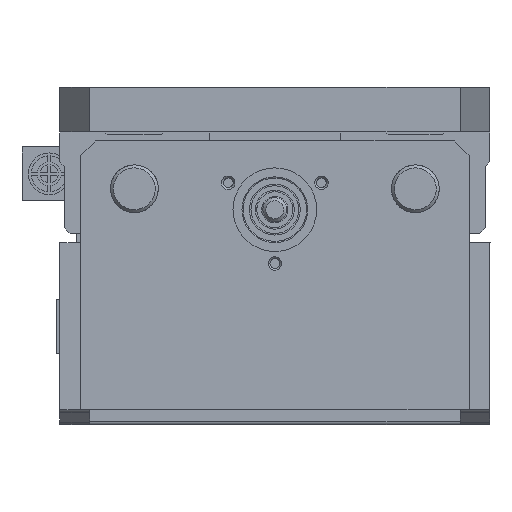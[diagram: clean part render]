
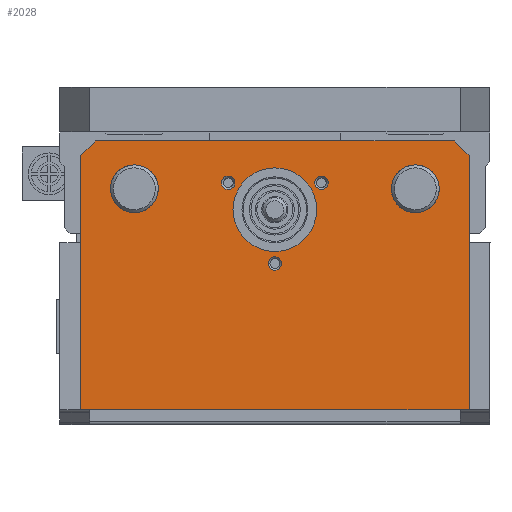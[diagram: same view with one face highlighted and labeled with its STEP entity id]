
A CAD part, front view. The second image highlights one B-rep face of the part: STEP entity #2028.
In plain terms, the highlighted planar face has unit normal (0, -1, 0) as drawn and (0, 0, 1) by its records, which use the part's own axes.
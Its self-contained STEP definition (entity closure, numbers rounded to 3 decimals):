
#2028=ADVANCED_FACE('',(#6701,#6703,#6705,#6707,#6709,#6711,#6713),#6715,.T.);
#6701=FACE_BOUND('',#6702,.T.);
#6702=EDGE_LOOP('',(#17052,#17053,#17054,#17055,#17056,#17057));
#6703=FACE_BOUND('',#6704,.T.);
#6704=EDGE_LOOP('',(#17058));
#6705=FACE_BOUND('',#6706,.T.);
#6706=EDGE_LOOP('',(#17059));
#6707=FACE_BOUND('',#6708,.T.);
#6708=EDGE_LOOP('',(#17060));
#6709=FACE_BOUND('',#6710,.T.);
#6710=EDGE_LOOP('',(#17061));
#6711=FACE_BOUND('',#6712,.T.);
#6712=EDGE_LOOP('',(#17062));
#6713=FACE_BOUND('',#6714,.T.);
#6714=EDGE_LOOP('',(#17063));
#6715=PLANE('',#6716);
#6716=AXIS2_PLACEMENT_3D('',#6717,#6718,#6719);
#6717=CARTESIAN_POINT('',(0.,0.,15.));
#6718=DIRECTION('',(0.,0.,1.));
#6719=DIRECTION('',(1.,0.,0.));
#17052=ORIENTED_EDGE('',*,*,#23595,.F.);
#17053=ORIENTED_EDGE('',*,*,#23596,.T.);
#17054=ORIENTED_EDGE('',*,*,#23597,.T.);
#17055=ORIENTED_EDGE('',*,*,#23588,.T.);
#17056=ORIENTED_EDGE('',*,*,#23598,.F.);
#17057=ORIENTED_EDGE('',*,*,#23599,.T.);
#17058=ORIENTED_EDGE('',*,*,#23600,.T.);
#17059=ORIENTED_EDGE('',*,*,#23601,.T.);
#17060=ORIENTED_EDGE('',*,*,#23583,.T.);
#17061=ORIENTED_EDGE('',*,*,#23602,.T.);
#17062=ORIENTED_EDGE('',*,*,#23603,.T.);
#17063=ORIENTED_EDGE('',*,*,#23604,.T.);
#23583=EDGE_CURVE('',#26833,#26833,#26834,.F.);
#23588=EDGE_CURVE('',#26844,#26842,#26845,.T.);
#23595=EDGE_CURVE('',#26857,#26858,#26859,.F.);
#23596=EDGE_CURVE('',#26857,#26860,#26861,.T.);
#23597=EDGE_CURVE('',#26860,#26844,#26862,.T.);
#23598=EDGE_CURVE('',#26863,#26842,#26864,.F.);
#23599=EDGE_CURVE('',#26863,#26858,#26865,.T.);
#23600=EDGE_CURVE('',#26866,#26866,#26867,.F.);
#23601=EDGE_CURVE('',#26868,#26868,#26869,.F.);
#23602=EDGE_CURVE('',#26870,#26870,#26871,.F.);
#23603=EDGE_CURVE('',#26872,#26872,#26873,.F.);
#23604=EDGE_CURVE('',#26874,#26874,#26875,.F.);
#26833=VERTEX_POINT('',#32850);
#26834=CIRCLE('',#32851,8.);
#26842=VERTEX_POINT('',#33009);
#26844=VERTEX_POINT('',#33013);
#26845=LINE('',#33014,#33015);
#26857=VERTEX_POINT('',#33044);
#26858=VERTEX_POINT('',#33045);
#26859=LINE('',#33046,#33047);
#26860=VERTEX_POINT('',#33049);
#26861=LINE('',#33050,#33051);
#26862=LINE('',#33053,#33054);
#26863=VERTEX_POINT('',#33056);
#26864=LINE('',#33057,#33058);
#26865=LINE('',#33060,#33061);
#26866=VERTEX_POINT('',#33063);
#26867=CIRCLE('',#33064,14.);
#26868=VERTEX_POINT('',#33068);
#26869=CIRCLE('',#33069,8.);
#26870=VERTEX_POINT('',#33073);
#26871=CIRCLE('',#33074,2.25);
#26872=VERTEX_POINT('',#33078);
#26873=CIRCLE('',#33079,2.25);
#26874=VERTEX_POINT('',#33083);
#26875=CIRCLE('',#33084,2.25);
#32850=CARTESIAN_POINT('',(-39.,29.,15.));
#32851=AXIS2_PLACEMENT_3D('',#32852,#32853,#32854);
#32852=CARTESIAN_POINT('',(-47.,29.,15.));
#32853=DIRECTION('',(0.,0.,1.));
#32854=DIRECTION('',(1.,0.,0.));
#33009=CARTESIAN_POINT('',(-65.,18.,15.));
#33013=CARTESIAN_POINT('',(-65.,103.,15.));
#33014=CARTESIAN_POINT('',(-65.,103.,15.));
#33015=VECTOR('',#33016,1.);
#33016=DIRECTION('',(0.,-1.,0.));
#33044=CARTESIAN_POINT('',(65.,18.,15.));
#33045=CARTESIAN_POINT('',(60.,13.,15.));
#33046=CARTESIAN_POINT('',(60.,13.,15.));
#33047=VECTOR('',#33048,1.);
#33048=DIRECTION('',(0.707,0.707,0.));
#33049=CARTESIAN_POINT('',(65.,103.,15.));
#33050=CARTESIAN_POINT('',(65.,18.,15.));
#33051=VECTOR('',#33052,1.);
#33052=DIRECTION('',(0.,1.,0.));
#33053=CARTESIAN_POINT('',(65.,103.,15.));
#33054=VECTOR('',#33055,1.);
#33055=DIRECTION('',(-1.,0.,0.));
#33056=CARTESIAN_POINT('',(-60.,13.,15.));
#33057=CARTESIAN_POINT('',(-65.,18.,15.));
#33058=VECTOR('',#33059,1.);
#33059=DIRECTION('',(0.707,-0.707,0.));
#33060=CARTESIAN_POINT('',(-60.,13.,15.));
#33061=VECTOR('',#33062,1.);
#33062=DIRECTION('',(1.,0.,0.));
#33063=CARTESIAN_POINT('',(14.,36.,15.));
#33064=AXIS2_PLACEMENT_3D('',#33065,#33066,#33067);
#33065=CARTESIAN_POINT('',(0.,36.,15.));
#33066=DIRECTION('',(0.,0.,1.));
#33067=DIRECTION('',(1.,0.,0.));
#33068=CARTESIAN_POINT('',(55.,29.,15.));
#33069=AXIS2_PLACEMENT_3D('',#33070,#33071,#33072);
#33070=CARTESIAN_POINT('',(47.,29.,15.));
#33071=DIRECTION('',(0.,0.,1.));
#33072=DIRECTION('',(1.,0.,0.));
#33073=CARTESIAN_POINT('',(2.25,54.,15.));
#33074=AXIS2_PLACEMENT_3D('',#33075,#33076,#33077);
#33075=CARTESIAN_POINT('',(0.,54.,15.));
#33076=DIRECTION('',(0.,0.,1.));
#33077=DIRECTION('',(1.,0.,0.));
#33078=CARTESIAN_POINT('',(-13.338,27.,15.));
#33079=AXIS2_PLACEMENT_3D('',#33080,#33081,#33082);
#33080=CARTESIAN_POINT('',(-15.588,27.,15.));
#33081=DIRECTION('',(0.,0.,1.));
#33082=DIRECTION('',(1.,0.,0.));
#33083=CARTESIAN_POINT('',(17.838,27.,15.));
#33084=AXIS2_PLACEMENT_3D('',#33085,#33086,#33087);
#33085=CARTESIAN_POINT('',(15.588,27.,15.));
#33086=DIRECTION('',(0.,0.,1.));
#33087=DIRECTION('',(1.,0.,0.));
